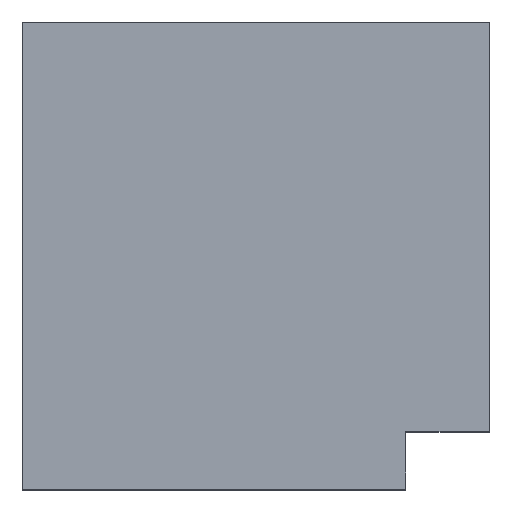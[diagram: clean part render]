
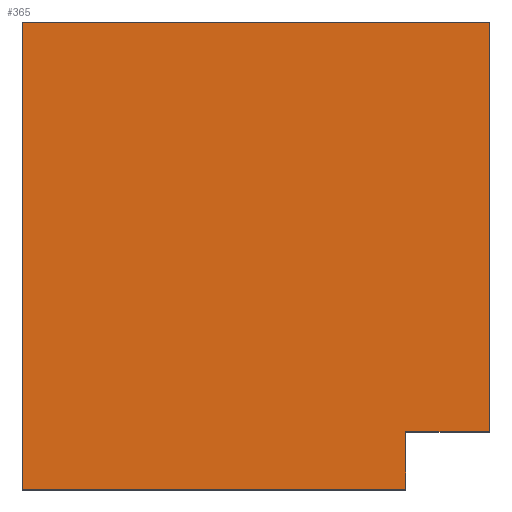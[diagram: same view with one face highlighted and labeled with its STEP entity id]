
A CAD part, top view. The second image highlights one B-rep face of the part: STEP entity #365.
In plain terms, the highlighted planar face has unit normal (0, 0, 1).
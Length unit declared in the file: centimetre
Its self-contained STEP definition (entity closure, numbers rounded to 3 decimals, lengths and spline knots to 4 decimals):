
#10 = VECTOR ( 'NONE', #197, 100. ) ;
#14 = DIRECTION ( 'NONE',  ( 1., 0., 0. ) ) ;
#16 = EDGE_CURVE ( 'NONE', #224, #177, #61, .T. ) ;
#18 = VECTOR ( 'NONE', #14, 100. ) ;
#24 = LINE ( 'NONE', #117, #156 ) ;
#28 = DIRECTION ( 'NONE',  ( -1., 0., 0. ) ) ;
#50 = ORIENTED_EDGE ( 'NONE', *, *, #157, .T. ) ;
#61 = LINE ( 'NONE', #282, #134 ) ;
#68 = PLANE ( 'NONE',  #148 ) ;
#73 = EDGE_CURVE ( 'NONE', #274, #177, #325, .T. ) ;
#78 = EDGE_CURVE ( 'NONE', #189, #224, #363, .T. ) ;
#85 = LINE ( 'NONE', #150, #10 ) ;
#97 = DIRECTION ( 'NONE',  ( -1., 0., 0. ) ) ;
#115 = ORIENTED_EDGE ( 'NONE', *, *, #78, .F. ) ;
#117 = CARTESIAN_POINT ( 'NONE',  ( 0., 1000., 1000. ) ) ;
#126 = CARTESIAN_POINT ( 'NONE',  ( 1000., 1000., 1000. ) ) ;
#134 = VECTOR ( 'NONE', #230, 100. ) ;
#142 = CARTESIAN_POINT ( 'NONE',  ( 820.2305, 123.3983, 1000. ) ) ;
#145 = VERTEX_POINT ( 'NONE', #377 ) ;
#146 = LINE ( 'NONE', #254, #323 ) ;
#148 = AXIS2_PLACEMENT_3D ( 'NONE', #263, #333, #151 ) ;
#149 = EDGE_CURVE ( 'NONE', #189, #304, #146, .T. ) ;
#150 = CARTESIAN_POINT ( 'NONE',  ( 0., 1000., 1000. ) ) ;
#151 = DIRECTION ( 'NONE',  ( 1., 0., 0. ) ) ;
#152 = ORIENTED_EDGE ( 'NONE', *, *, #240, .T. ) ;
#156 = VECTOR ( 'NONE', #28, 100. ) ;
#157 = EDGE_CURVE ( 'NONE', #304, #145, #24, .T. ) ;
#170 = DIRECTION ( 'NONE',  ( 0., 1., 0. ) ) ;
#177 = VERTEX_POINT ( 'NONE', #229 ) ;
#189 = VERTEX_POINT ( 'NONE', #279 ) ;
#197 = DIRECTION ( 'NONE',  ( 0., -1., 0. ) ) ;
#212 = FACE_OUTER_BOUND ( 'NONE', #217, .T. ) ;
#217 = EDGE_LOOP ( 'NONE', ( #250, #115, #341, #50, #152, #344 ) ) ;
#224 = VERTEX_POINT ( 'NONE', #142 ) ;
#229 = CARTESIAN_POINT ( 'NONE',  ( 820.2305, 0., 1000. ) ) ;
#230 = DIRECTION ( 'NONE',  ( 0., -1., 0. ) ) ;
#240 = EDGE_CURVE ( 'NONE', #145, #274, #85, .T. ) ;
#250 = ORIENTED_EDGE ( 'NONE', *, *, #16, .F. ) ;
#254 = CARTESIAN_POINT ( 'NONE',  ( 1000., 1000., 1000. ) ) ;
#263 = CARTESIAN_POINT ( 'NONE',  ( 0., 0., 1000. ) ) ;
#274 = VERTEX_POINT ( 'NONE', #311 ) ;
#279 = CARTESIAN_POINT ( 'NONE',  ( 1000., 123.3983, 1000. ) ) ;
#282 = CARTESIAN_POINT ( 'NONE',  ( 820.2305, 0., 1000. ) ) ;
#286 = CARTESIAN_POINT ( 'NONE',  ( 0., 0., 1000. ) ) ;
#304 = VERTEX_POINT ( 'NONE', #126 ) ;
#307 = VECTOR ( 'NONE', #97, 100. ) ;
#311 = CARTESIAN_POINT ( 'NONE',  ( 0., 0., 1000. ) ) ;
#323 = VECTOR ( 'NONE', #170, 100. ) ;
#325 = LINE ( 'NONE', #286, #18 ) ;
#333 = DIRECTION ( 'NONE',  ( 0., 0., 1. ) ) ;
#334 = CARTESIAN_POINT ( 'NONE',  ( 820.2305, 123.3983, 1000. ) ) ;
#341 = ORIENTED_EDGE ( 'NONE', *, *, #149, .T. ) ;
#344 = ORIENTED_EDGE ( 'NONE', *, *, #73, .T. ) ;
#363 = LINE ( 'NONE', #334, #307 ) ;
#365 = ADVANCED_FACE ( 'NONE', ( #212 ), #68, .T. ) ;
#377 = CARTESIAN_POINT ( 'NONE',  ( 0., 1000., 1000. ) ) ;
